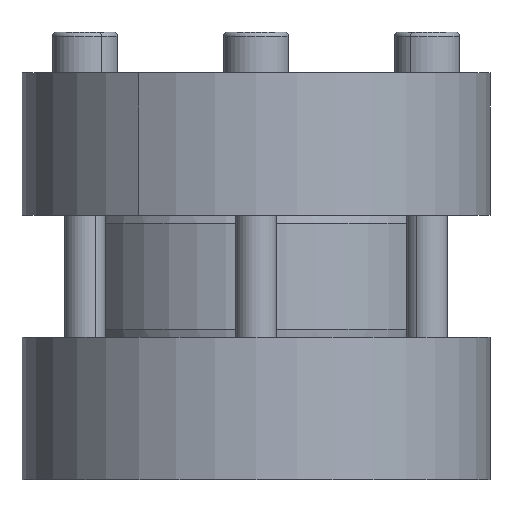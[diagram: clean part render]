
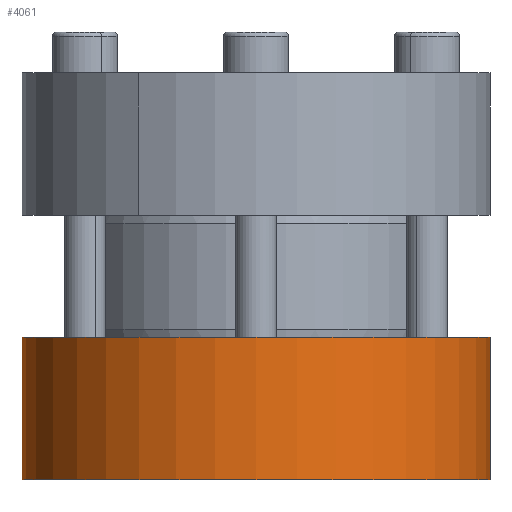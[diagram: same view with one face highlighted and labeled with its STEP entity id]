
A CAD part, front view. The second image highlights one B-rep face of the part: STEP entity #4061.
In plain terms, the highlighted cylindrical face has radius 57.5 mm (diameter 115 mm), a partial arc.
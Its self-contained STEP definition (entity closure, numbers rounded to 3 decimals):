
#124 = CIRCLE ( 'NONE', #3725, 57.5 ) ;
#599 = EDGE_CURVE ( 'NONE', #1603, #4929, #7150, .T. ) ;
#1485 = CARTESIAN_POINT ( 'NONE',  ( -57.5, 0., 33.007 ) ) ;
#1601 = CARTESIAN_POINT ( 'NONE',  ( -57.5, 0., 33.007 ) ) ;
#1603 = VERTEX_POINT ( 'NONE', #7373 ) ;
#1693 = LINE ( 'NONE', #3879, #7176 ) ;
#1862 = DIRECTION ( 'NONE',  ( -1., 0., 0. ) ) ;
#2297 = CARTESIAN_POINT ( 'NONE',  ( 57.5, 0., 33.007 ) ) ;
#2439 = ORIENTED_EDGE ( 'NONE', *, *, #7664, .F. ) ;
#2482 = CARTESIAN_POINT ( 'NONE',  ( 0., 0., 33.007 ) ) ;
#2489 = VERTEX_POINT ( 'NONE', #1485 ) ;
#2644 = ORIENTED_EDGE ( 'NONE', *, *, #7181, .F. ) ;
#3184 = DIRECTION ( 'NONE',  ( 1., 0., 0. ) ) ;
#3257 = CARTESIAN_POINT ( 'NONE',  ( 0., 0., -1.993 ) ) ;
#3275 = AXIS2_PLACEMENT_3D ( 'NONE', #6090, #6117, #1862 ) ;
#3426 = CYLINDRICAL_SURFACE ( 'NONE', #3275, 57.5 ) ;
#3552 = VECTOR ( 'NONE', #6593, 1000. ) ;
#3725 = AXIS2_PLACEMENT_3D ( 'NONE', #2482, #7498, #3184 ) ;
#3862 = EDGE_CURVE ( 'NONE', #2489, #1603, #9071, .T. ) ;
#3879 = CARTESIAN_POINT ( 'NONE',  ( 57.5, 0., 33.007 ) ) ;
#3985 = DIRECTION ( 'NONE',  ( 1., 0., 0. ) ) ;
#3986 = EDGE_LOOP ( 'NONE', ( #2644, #2439, #7702, #7876 ) ) ;
#4061 = ADVANCED_FACE ( 'NONE', ( #6249 ), #3426, .T. ) ;
#4929 = VERTEX_POINT ( 'NONE', #5933 ) ;
#5933 = CARTESIAN_POINT ( 'NONE',  ( 57.5, 0., -1.993 ) ) ;
#6077 = VERTEX_POINT ( 'NONE', #2297 ) ;
#6090 = CARTESIAN_POINT ( 'NONE',  ( 0., 0., 33.007 ) ) ;
#6117 = DIRECTION ( 'NONE',  ( 0., 0., -1. ) ) ;
#6170 = AXIS2_PLACEMENT_3D ( 'NONE', #3257, #8289, #3985 ) ;
#6249 = FACE_OUTER_BOUND ( 'NONE', #3986, .T. ) ;
#6593 = DIRECTION ( 'NONE',  ( 0., 0., -1. ) ) ;
#7150 = CIRCLE ( 'NONE', #6170, 57.5 ) ;
#7176 = VECTOR ( 'NONE', #7496, 1000. ) ;
#7181 = EDGE_CURVE ( 'NONE', #6077, #4929, #1693, .T. ) ;
#7373 = CARTESIAN_POINT ( 'NONE',  ( -57.5, 0., -1.993 ) ) ;
#7496 = DIRECTION ( 'NONE',  ( 0., 0., -1. ) ) ;
#7498 = DIRECTION ( 'NONE',  ( 0., 0., 1. ) ) ;
#7664 = EDGE_CURVE ( 'NONE', #2489, #6077, #124, .T. ) ;
#7702 = ORIENTED_EDGE ( 'NONE', *, *, #3862, .T. ) ;
#7876 = ORIENTED_EDGE ( 'NONE', *, *, #599, .T. ) ;
#8289 = DIRECTION ( 'NONE',  ( 0., 0., 1. ) ) ;
#9071 = LINE ( 'NONE', #1601, #3552 ) ;
